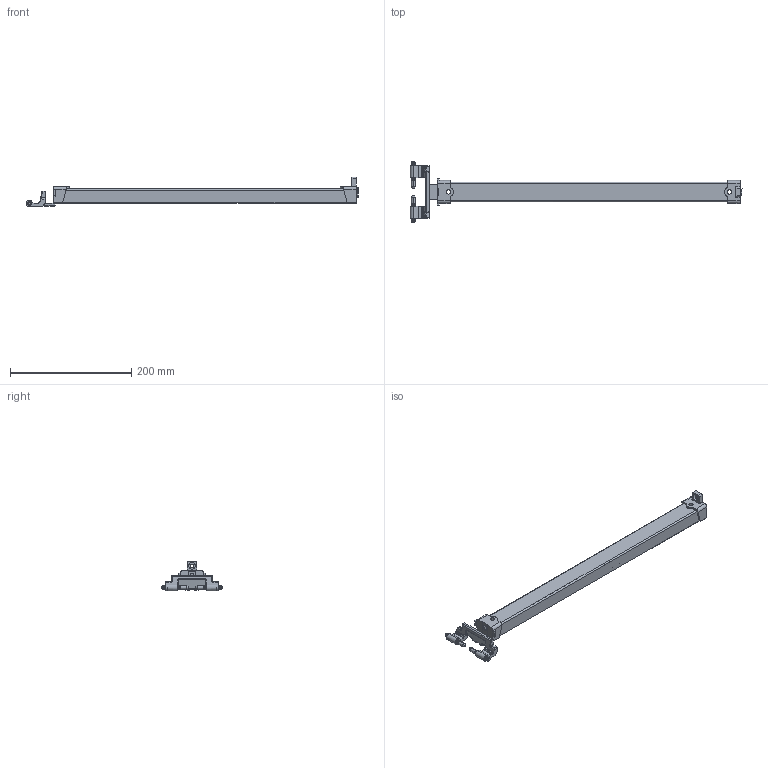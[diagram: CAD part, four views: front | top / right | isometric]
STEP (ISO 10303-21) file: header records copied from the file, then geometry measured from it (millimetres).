
FILE_DESCRIPTION (( 'STEP AP203' ), '1' );
FILE_NAME ('EUSO-000600C.STEP', '2015-04-22T11:44:05', ( 'Admin' ), ( '' ), 'SwSTEP 2.0', 'SolidWorks 2014', '' );
FILE_SCHEMA (( 'CONFIG_CONTROL_DESIGN' ));
Length unit declared in the file: millimetre
Products named in the file (1): EUSO-000600C
Bounding box: 548.09 x 101 x 49 mm (x, y, z)
Volume: 102836.3 mm3; surface area: 107349.3 mm2
Topology: 1 solids, 1 shells, 471 faces, 1192 edges, 719 vertices
Faces by surface type: cylinder 198, plane 177, torus 55, cone 22, sphere 11, bspline 8
Entity records: 14318 total; most frequent: CARTESIAN_POINT 2969, DIRECTION 2430, ORIENTED_EDGE 2358, EDGE_CURVE 1179, AXIS2_PLACEMENT_3D 874, VERTEX_POINT 719, LINE 682, VECTOR 682
